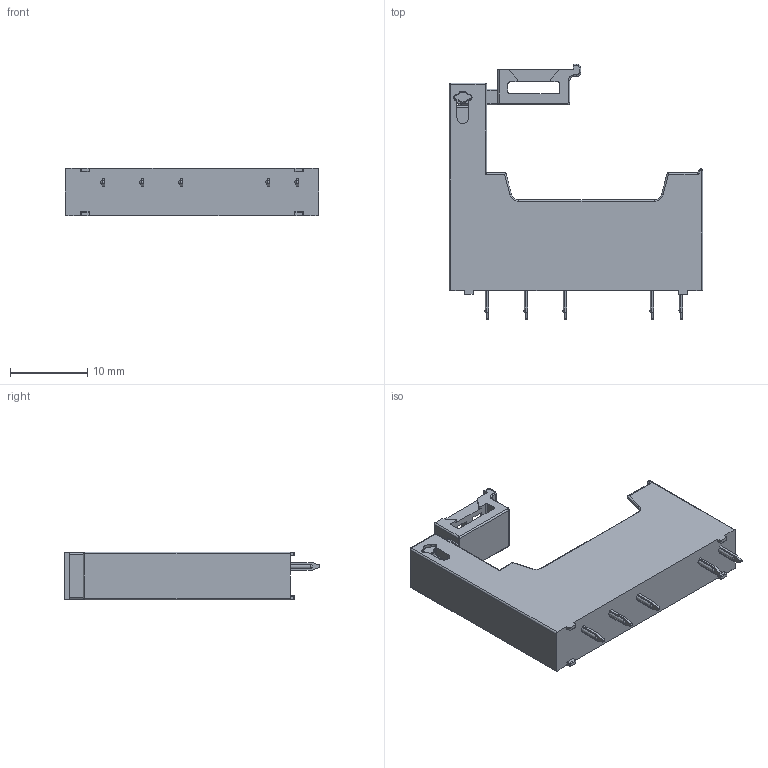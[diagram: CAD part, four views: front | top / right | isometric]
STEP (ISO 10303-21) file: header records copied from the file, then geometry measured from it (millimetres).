
FILE_DESCRIPTION (( 'STEP AP203' ), '1' );
FILE_NAME ('SNC05-P 俋倛.STEP', '2023-05-10T00:27:40', ( '' ), ( '' ), 'SwSTEP 2.0', 'SolidWorks 2018', '' );
FILE_SCHEMA (( 'CONFIG_CONTROL_DESIGN' ));
Length unit declared in the file: millimetre
Products named in the file (1): SNC05-P 俋倛
Bounding box: 32.78 x 33.05 x 6.2 mm (x, y, z)
Volume: 2448 mm3; surface area: 2948.9 mm2
Topology: 2 solids, 2 shells, 654 faces, 1669 edges, 1024 vertices
Faces by surface type: plane 380, cylinder 212, torus 38, sphere 14, bspline 6, cone 4
Entity records: 20026 total; most frequent: CARTESIAN_POINT 4072, DIRECTION 3329, ORIENTED_EDGE 3302, EDGE_CURVE 1651, VECTOR 1175, LINE 1175, AXIS2_PLACEMENT_3D 1077, VERTEX_POINT 1024
